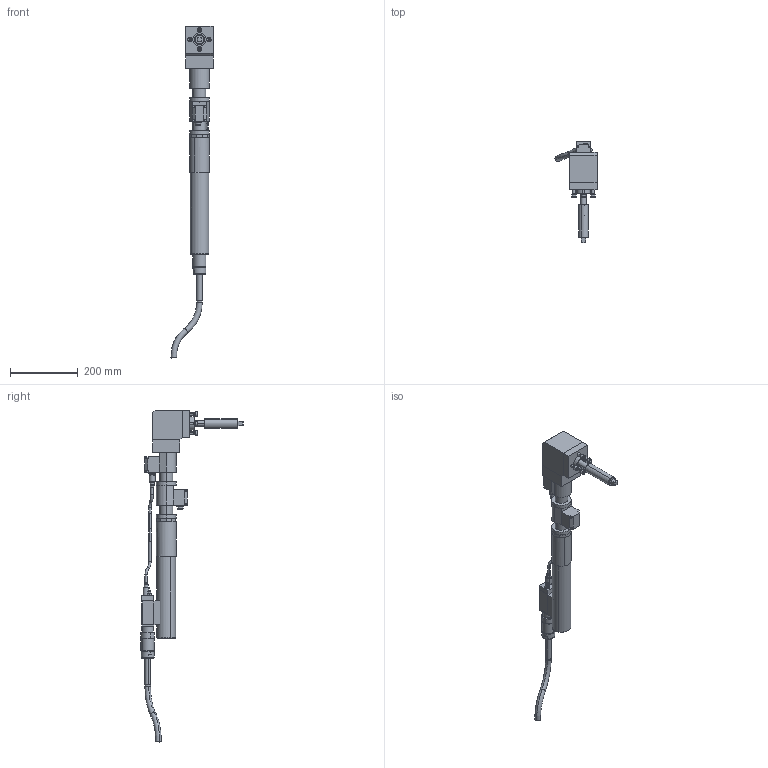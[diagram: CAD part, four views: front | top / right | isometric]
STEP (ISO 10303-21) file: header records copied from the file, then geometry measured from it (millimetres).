
FILE_DESCRIPTION(('CATIA V5 STEP Exchange'),'2;1');
FILE_NAME('C:\pro\7920522_ECR220_DWR200_DR200_AW250_AllCATPart.stp','2008-11-10T09:33:04+00:00',('none'),('none'),'CATIA Version 5 Release 17 (IN-10)','CATIA V5 STEP AP203','none');
FILE_SCHEMA(('CONFIG_CONTROL_DESIGN'));
Length unit declared in the file: millimetre
Products named in the file (1): 7920522_ECR220_DWR200_DR200_AW250_AllCATPart
Bounding box: 123.82 x 300.98 x 978.16 mm (x, y, z)
Volume: 2887575.1 mm3; surface area: 322961.9 mm2
Topology: 22 solids, 22 shells, 535 faces, 1190 edges, 742 vertices
Faces by surface type: plane 257, cylinder 178, cone 60, torus 40
Entity records: 13922 total; most frequent: CARTESIAN_POINT 2790, ORIENTED_EDGE 2356, DIRECTION 1936, EDGE_CURVE 1178, AXIS2_PLACEMENT_3D 900, VERTEX_POINT 742, VECTOR 634, LINE 634
